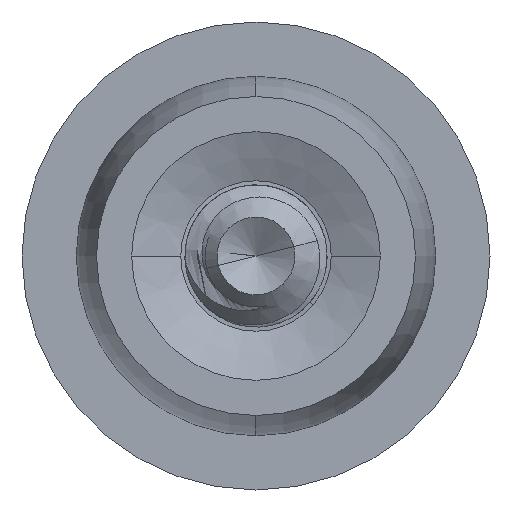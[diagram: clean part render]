
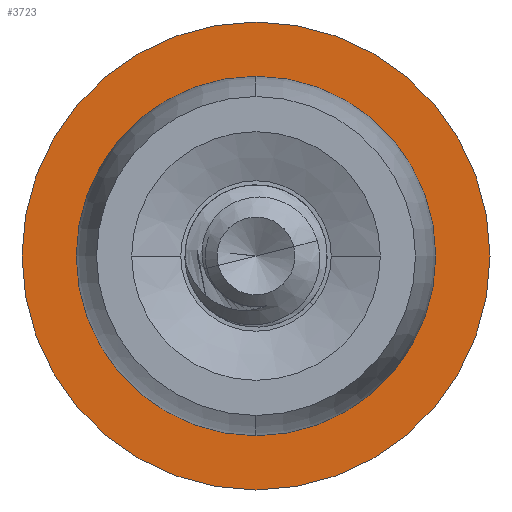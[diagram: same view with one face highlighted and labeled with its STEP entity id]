
A CAD part, left-side view. The second image highlights one B-rep face of the part: STEP entity #3723.
In plain terms, the highlighted planar face has unit normal (-1, 0, 0).
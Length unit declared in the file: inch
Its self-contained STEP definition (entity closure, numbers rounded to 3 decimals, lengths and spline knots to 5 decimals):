
#5 = CARTESIAN_POINT ( 'NONE',  ( 0.25312, 1.13117, 1.40637 ) ) ;
#175 = CARTESIAN_POINT ( 'NONE',  ( 0.25312, 1.13117, 1.64637 ) ) ;
#214 = CARTESIAN_POINT ( 'NONE',  ( 0.25312, 1.13117, 1.40637 ) ) ;
#533 = DIRECTION ( 'NONE',  ( -1., 0., 0. ) ) ;
#689 = CARTESIAN_POINT ( 'NONE',  ( 0.25312, 1.13117, 1.71887 ) ) ;
#1175 = CARTESIAN_POINT ( 'NONE',  ( 0.25312, 1.13117, 1.16637 ) ) ;
#1273 = ORIENTED_EDGE ( 'NONE', *, *, #7892, .F. ) ;
#1557 = AXIS2_PLACEMENT_3D ( 'NONE', #2534, #7911, #5897 ) ;
#2103 = AXIS2_PLACEMENT_3D ( 'NONE', #5, #7148, #6465 ) ;
#2279 = VERTEX_POINT ( 'NONE', #4009 ) ;
#2534 = CARTESIAN_POINT ( 'NONE',  ( 0.25312, 1.13117, 1.16637 ) ) ;
#2624 = AXIS2_PLACEMENT_3D ( 'NONE', #214, #3429, #9758 ) ;
#2657 = ORIENTED_EDGE ( 'NONE', *, *, #3786, .F. ) ;
#2830 = DIRECTION ( 'NONE',  ( 0., 0., 1. ) ) ;
#3074 = EDGE_LOOP ( 'NONE', ( #9217, #7666 ) ) ;
#3429 = DIRECTION ( 'NONE',  ( -1., 0., 0. ) ) ;
#3590 = CARTESIAN_POINT ( 'NONE',  ( 0.25312, 1.13117, 1.40637 ) ) ;
#3723 = ADVANCED_FACE ( 'NONE', ( #4749, #8988 ), #6705, .T. ) ;
#3766 = CIRCLE ( 'NONE', #2103, 0.24 ) ;
#3786 = EDGE_CURVE ( 'NONE', #5664, #5208, #3766, .T. ) ;
#3898 = CIRCLE ( 'NONE', #5233, 0.3125 ) ;
#3906 = EDGE_CURVE ( 'NONE', #2279, #5972, #5973, .T. ) ;
#4009 = CARTESIAN_POINT ( 'NONE',  ( 0.25312, 1.13117, 1.09387 ) ) ;
#4749 = FACE_OUTER_BOUND ( 'NONE', #3074, .T. ) ;
#5208 = VERTEX_POINT ( 'NONE', #175 ) ;
#5224 = DIRECTION ( 'NONE',  ( 0., 0., 1. ) ) ;
#5233 = AXIS2_PLACEMENT_3D ( 'NONE', #6016, #533, #5224 ) ;
#5664 = VERTEX_POINT ( 'NONE', #1175 ) ;
#5897 = DIRECTION ( 'NONE',  ( 0., 0., 1. ) ) ;
#5972 = VERTEX_POINT ( 'NONE', #689 ) ;
#5973 = CIRCLE ( 'NONE', #2624, 0.3125 ) ;
#6016 = CARTESIAN_POINT ( 'NONE',  ( 0.25312, 1.13117, 1.40637 ) ) ;
#6465 = DIRECTION ( 'NONE',  ( 0., 0., 1. ) ) ;
#6705 = PLANE ( 'NONE',  #1557 ) ;
#7148 = DIRECTION ( 'NONE',  ( -1., 0., 0. ) ) ;
#7239 = CIRCLE ( 'NONE', #9119, 0.24 ) ;
#7666 = ORIENTED_EDGE ( 'NONE', *, *, #3906, .T. ) ;
#7892 = EDGE_CURVE ( 'NONE', #5208, #5664, #7239, .T. ) ;
#7911 = DIRECTION ( 'NONE',  ( -1., 0., 0. ) ) ;
#8269 = EDGE_CURVE ( 'NONE', #5972, #2279, #3898, .T. ) ;
#8335 = DIRECTION ( 'NONE',  ( -1., 0., 0. ) ) ;
#8988 = FACE_BOUND ( 'NONE', #9514, .T. ) ;
#9119 = AXIS2_PLACEMENT_3D ( 'NONE', #3590, #8335, #2830 ) ;
#9217 = ORIENTED_EDGE ( 'NONE', *, *, #8269, .T. ) ;
#9514 = EDGE_LOOP ( 'NONE', ( #1273, #2657 ) ) ;
#9758 = DIRECTION ( 'NONE',  ( 0., 0., 1. ) ) ;
